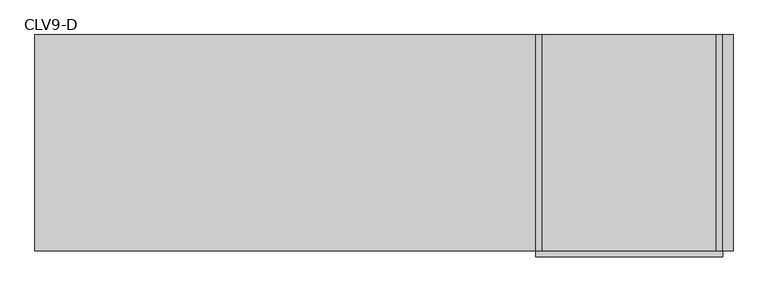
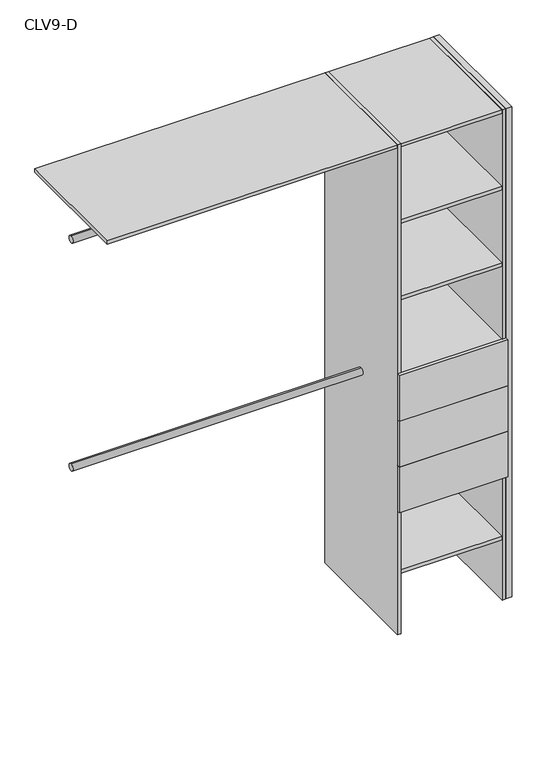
"""IFC4 building model written with IfcOpenShell, lengths in millimetres: furniture geometry, Closet 1estantes-1tubos_lateral estante : CLV9-D."""

from ifc_helpers import new_model, si_unit, point, frame, frame_2d, origin, origin_with_axes, place, context, project, spatial, polyline, circle_curve, trimmed, segment, composite_curve, outline, extrude, source, transform, mapped, element, save


def clv9_d_9c159f32(model_context):
    return source(origin(), model_context, "Body", "SweptSolid", [
        extrude(outline(polyline([(250.0, 80.0), (225.0, 80.0), (225.0, 600.0), (250.0, 600.0), (250.0, 80.0)])), origin_with_axes(), (0.0, 0.0, 1.0), 2150.0),
        extrude(outline(polyline([(225.0, 80.0), (210.0, 80.0), (210.0, 600.0), (225.0, 600.0), (225.0, 80.0)])), origin_with_axes(), (0.0, 0.0, 1.0), 2150.0),
        extrude(outline(polyline([(-210.0, 80.0), (-225.0, 80.0), (-225.0, 600.0), (-210.0, 600.0), (-210.0, 80.0)])), origin_with_axes(), (0.0, 0.0, 1.0), 2150.0),
        extrude(outline(polyline([(225.0, 80.0), (225.0, 65.0), (-225.0, 65.0), (-225.0, 80.0), (225.0, 80.0)])), frame((0.0, 0.0, 945.0), z_axis=(0.0, 0.0, 1.0), x_axis=(1.0, 0.0, 0.0)), (0.0, 0.0, 1.0), 200.0),
        extrude(outline(polyline([(225.0, 80.0), (225.0, 65.0), (-225.0, 65.0), (-225.0, 80.0), (225.0, 80.0)])), frame((0.0, 0.0, 745.0), z_axis=(0.0, 0.0, 1.0), x_axis=(1.0, 0.0, 0.0)), (0.0, 0.0, 1.0), 200.0),
        extrude(outline(polyline([(225.0, 80.0), (225.0, 65.0), (-225.0, 65.0), (-225.0, 80.0), (225.0, 80.0)])), frame((0.0, 0.0, 545.0), z_axis=(0.0, 0.0, 1.0), x_axis=(1.0, 0.0, 0.0)), (0.0, 0.0, 1.0), 200.0),
        extrude(outline(polyline([(210.0, 80.0), (-210.0, 80.0), (-210.0, 600.0), (210.0, 600.0), (210.0, 80.0)])), frame((0.0, 0.0, 1130.0), z_axis=(0.0, 0.0, 1.0), x_axis=(1.0, 0.0, 0.0)), (0.0, 0.0, 1.0), 15.0),
        extrude(outline(composite_curve([segment(trimmed(circle_curve(frame_2d((340.0, 1000.0)), 15.0), [point((340.0, 1015.0))], [point((340.0, 985.0))], False, "CARTESIAN"), True, "CONTINUOUS"), segment(trimmed(circle_curve(frame_2d((340.0, 1000.0)), 15.0), [point((340.0, 985.0))], [point((340.0, 1015.0))], False, "CARTESIAN"), True, "CONTINUOUS")], self_intersect=False)), frame((-1430.0, 0.0, 0.0), z_axis=(1.0, 0.0, 0.0), x_axis=(0.0, 1.0, 0.0)), (0.0, 0.0, 1.0), 1205.0),
        extrude(outline(composite_curve([segment(trimmed(circle_curve(frame_2d((340.0, 2000.0)), 15.0), [point((340.0, 2015.0))], [point((340.0, 1985.0))], False, "CARTESIAN"), True, "CONTINUOUS"), segment(trimmed(circle_curve(frame_2d((340.0, 2000.0)), 15.0), [point((340.0, 1985.0))], [point((340.0, 2015.0))], False, "CARTESIAN"), True, "CONTINUOUS")], self_intersect=False)), frame((-1430.0, 0.0, 0.0), z_axis=(1.0, 0.0, 0.0), x_axis=(0.0, 1.0, 0.0)), (0.0, 0.0, 1.0), 1205.0),
        extrude(outline(polyline([(210.0, 80.0), (-210.0, 80.0), (-210.0, 600.0), (210.0, 600.0), (210.0, 80.0)])), frame((0.0, 0.0, 265.0), z_axis=(0.0, 0.0, 1.0), x_axis=(1.0, 0.0, 0.0)), (0.0, 0.0, 1.0), 15.0),
        extrude(outline(polyline([(210.0, 80.0), (-210.0, 80.0), (-210.0, 600.0), (210.0, 600.0), (210.0, 80.0)])), frame((0.0, 0.0, 545.0), z_axis=(0.0, 0.0, 1.0), x_axis=(1.0, 0.0, 0.0)), (0.0, 0.0, 1.0), 15.0),
        extrude(outline(polyline([(210.0, 80.0), (-210.0, 80.0), (-210.0, 600.0), (210.0, 600.0), (210.0, 80.0)])), frame((0.0, 0.0, 1465.0), z_axis=(0.0, 0.0, 1.0), x_axis=(1.0, 0.0, 0.0)), (0.0, 0.0, 1.0), 15.0),
        extrude(outline(polyline([(210.0, 80.0), (-210.0, 80.0), (-210.0, 600.0), (210.0, 600.0), (210.0, 80.0)])), frame((0.0, 0.0, 1800.0), z_axis=(0.0, 0.0, 1.0), x_axis=(1.0, 0.0, 0.0)), (0.0, 0.0, 1.0), 15.0),
        extrude(outline(polyline([(-210.0, 80.0), (-1430.0, 80.0), (-1430.0, 600.0), (-210.0, 600.0), (-210.0, 80.0)])), frame((0.0, 0.0, 2135.0), z_axis=(0.0, 0.0, 1.0), x_axis=(1.0, 0.0, 0.0)), (0.0, 0.0, 1.0), 15.0),
        extrude(outline(polyline([(210.0, 80.0), (-210.0, 80.0), (-210.0, 600.0), (210.0, 600.0), (210.0, 80.0)])), frame((0.0, 0.0, 2135.0), z_axis=(0.0, 0.0, 1.0), x_axis=(1.0, 0.0, 0.0)), (0.0, 0.0, 1.0), 15.0),
    ])


if __name__ == "__main__":
    model = new_model("IFC4")
    model_context = context("Model", 3, world=origin())
    ifc_project = project(units=[si_unit("LENGTHUNIT", "METRE", prefix="MILLI")], contexts=[model_context])
    site = spatial("IfcSite", under=ifc_project)
    building = spatial("IfcBuilding", under=site)
    placement = place(None, origin())
    clv9_d_shape = clv9_d_9c159f32(model_context)
    element("IfcFurniture", 1, ObjectType="Closet 1estantes-1tubos_lateral estante : CLV9-D", at=placement, inside=building, context=model_context, shape_type="MappedRepresentation", body=[
        mapped(clv9_d_shape, transform((0.0, 0.0, 0.0), x_axis=(1.0, 0.0, 0.0), y_axis=(0.0, 1.0, 0.0), z_axis=(0.0, 0.0, 1.0))),
    ])
    save(model, "model.ifc")
